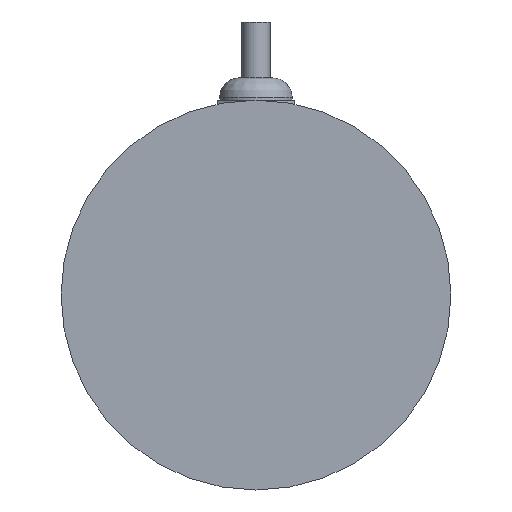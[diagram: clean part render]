
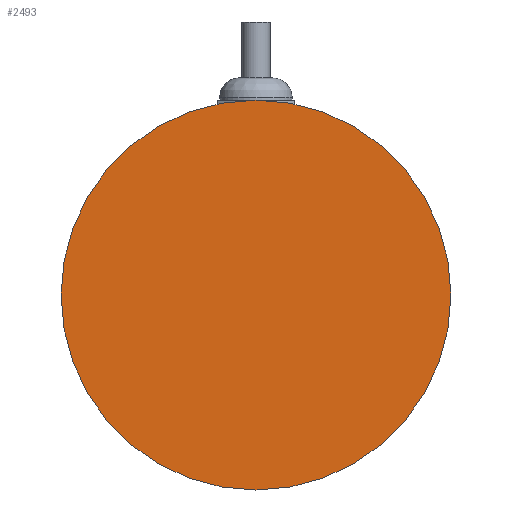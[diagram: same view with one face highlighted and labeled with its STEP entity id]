
A CAD part, front view. The second image highlights one B-rep face of the part: STEP entity #2493.
In plain terms, the highlighted planar face has unit normal (0, -1, 0).
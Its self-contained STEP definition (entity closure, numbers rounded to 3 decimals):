
#279=PLANE('',#2738);
#423=FACE_OUTER_BOUND('',#583,.T.);
#583=EDGE_LOOP('',(#2250,#2251));
#919=CIRCLE('',#2736,35.);
#920=CIRCLE('',#2737,35.);
#1162=VERTEX_POINT('',#10850);
#1163=VERTEX_POINT('',#10851);
#1528=EDGE_CURVE('',#1162,#1163,#919,.T.);
#1529=EDGE_CURVE('',#1163,#1162,#920,.T.);
#2250=ORIENTED_EDGE('',*,*,#1528,.T.);
#2251=ORIENTED_EDGE('',*,*,#1529,.T.);
#2493=ADVANCED_FACE('',(#423),#279,.T.);
#2736=AXIS2_PLACEMENT_3D('',#10852,#3296,#3297);
#2737=AXIS2_PLACEMENT_3D('',#10853,#3298,#3299);
#2738=AXIS2_PLACEMENT_3D('',#10855,#3301,#3302);
#3296=DIRECTION('center_axis',(0.,-1.,0.));
#3297=DIRECTION('ref_axis',(1.,0.,0.));
#3298=DIRECTION('center_axis',(0.,-1.,0.));
#3299=DIRECTION('ref_axis',(1.,0.,0.));
#3301=DIRECTION('center_axis',(0.,-1.,0.));
#3302=DIRECTION('ref_axis',(0.,0.,-1.));
#10850=CARTESIAN_POINT('',(35.,0.,0.));
#10851=CARTESIAN_POINT('',(-35.,0.,0.));
#10852=CARTESIAN_POINT('Origin',(0.,0.,0.));
#10853=CARTESIAN_POINT('Origin',(0.,0.,0.));
#10855=CARTESIAN_POINT('Origin',(0.,0.,0.));
